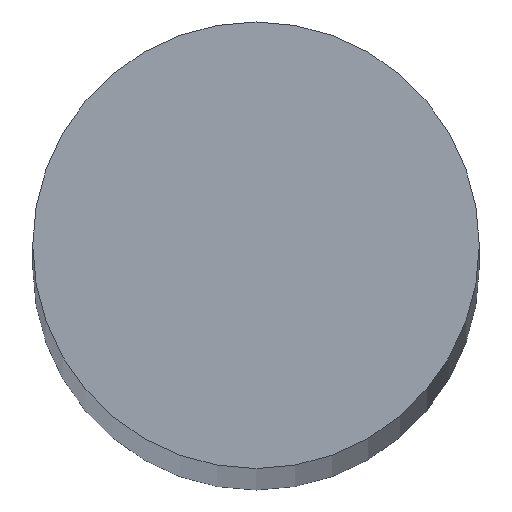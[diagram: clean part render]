
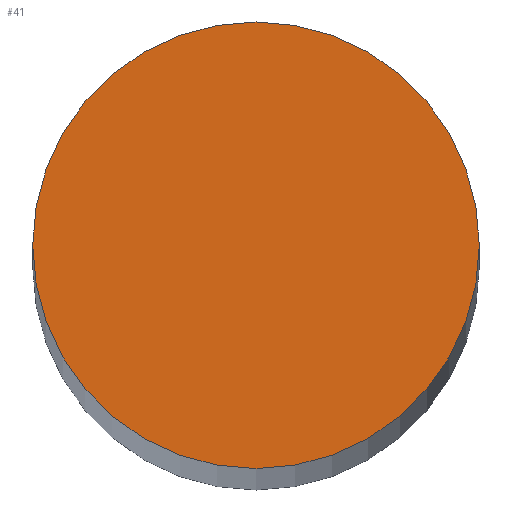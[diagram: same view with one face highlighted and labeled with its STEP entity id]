
A CAD part, top view. The second image highlights one B-rep face of the part: STEP entity #41.
In plain terms, the highlighted planar face has unit normal (0, 0, 1).
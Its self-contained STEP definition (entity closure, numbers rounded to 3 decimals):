
#16=PLANE('',#66);
#19=FACE_OUTER_BOUND('',#22,.T.);
#22=EDGE_LOOP('',(#37));
#25=CIRCLE('',#63,10.);
#27=VERTEX_POINT('',#82);
#29=EDGE_CURVE('',#27,#27,#25,.T.);
#37=ORIENTED_EDGE('',*,*,#29,.T.);
#41=ADVANCED_FACE('',(#19),#16,.T.);
#63=AXIS2_PLACEMENT_3D('',#83,#71,#72);
#66=AXIS2_PLACEMENT_3D('',#88,#78,#79);
#71=DIRECTION('center_axis',(0.,0.,1.));
#72=DIRECTION('ref_axis',(-1.,0.,0.));
#78=DIRECTION('center_axis',(0.,0.,1.));
#79=DIRECTION('ref_axis',(1.,0.,0.));
#82=CARTESIAN_POINT('',(10.,0.,550.));
#83=CARTESIAN_POINT('Origin',(0.,0.,550.));
#88=CARTESIAN_POINT('Origin',(0.,0.,550.));
